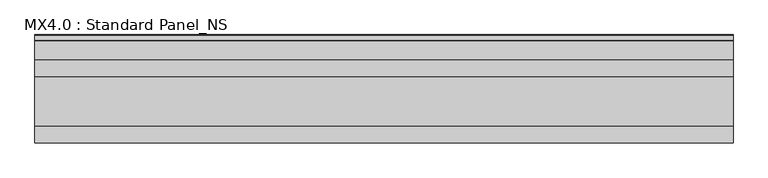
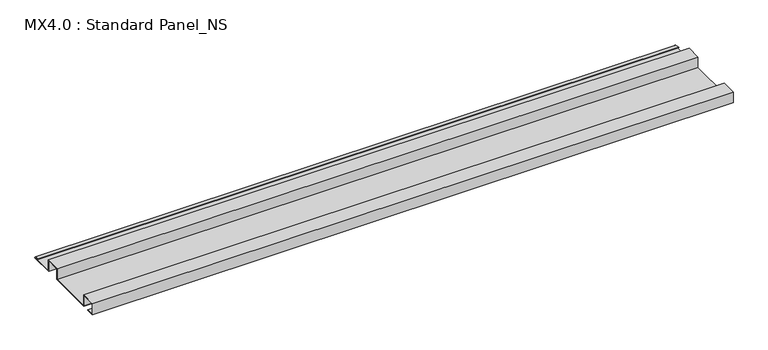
"""IFC4 building model written with IfcOpenShell, lengths in millimetres: proxy geometry, MX4.0 : Standard Panel_NS."""

from ifc_helpers import new_model, si_unit, point, frame, frame_2d, origin, place, context, project, spatial, polyline, circle_curve, trimmed, segment, composite_curve, outline, extrude, source, transform, mapped, element, save


def mx4_0_standard_panel_ns_50b23f36(model_context):
    return source(origin(), model_context, "Body", "SweptSolid", [
        extrude(outline(composite_curve([segment(polyline([(0.0, 0.0), (0.0, 38.0), (50.0, 38.0), (50.0, 1.0), (200.0, 1.0), (200.0, 38.0), (250.0, 38.0), (250.0, 0.0), (324.8317866, 0.0)]), True, "CONTINUOUS"), segment(trimmed(circle_curve(frame_2d((324.3094696, 0.9153551)), 1.0538928), [point((324.8317866, 0.0))], [point((324.8448691, 1.8231201))], True, "CARTESIAN"), True, "CONTINUOUS"), segment(polyline([(324.8448691, 1.8231201), (308.5989911, 4.94103), (308.7874714, 5.923107), (325.1748462, 2.778041)]), True, "CONTINUOUS"), segment(trimmed(circle_curve(frame_2d((324.3094696, 0.9153551)), 2.0538928), [point((325.1748462, 2.778041))], [point((325.0510156, -1.0))], False, "CARTESIAN"), True, "CONTINUOUS"), segment(polyline([(325.0510156, -1.0), (249.0, -1.0), (249.0, 37.0), (201.0, 37.0), (201.0, 0.0), (49.0, 0.0), (49.0, 37.0), (1.0, 37.0), (1.0, 1.0), (25.0, 1.0), (25.0, 0.0), (0.0, 0.0)]), True, "CONTINUOUS")], self_intersect=False)), frame((0.0, 0.0, 0.0), z_axis=(1.0, 0.0, 0.0), x_axis=(0.0, 1.0, 0.0)), (0.0, 0.0, 1.0), 2100.0),
    ])


if __name__ == "__main__":
    model = new_model("IFC4")
    model_context = context("Model", 3, world=origin())
    ifc_project = project(units=[si_unit("LENGTHUNIT", "METRE", prefix="MILLI")], contexts=[model_context])
    site = spatial("IfcSite", under=ifc_project)
    building = spatial("IfcBuilding", under=site)
    placement = place(None, origin())
    mx4_0_standard_panel_ns_shape = mx4_0_standard_panel_ns_50b23f36(model_context)
    element("IfcBuildingElementProxy", 1, Name="MX4.0 : Standard Panel_NS", ObjectType="MX4.0 : Standard Panel_NS", at=placement, inside=building, context=model_context, shape_type="MappedRepresentation", body=[
        mapped(mx4_0_standard_panel_ns_shape, transform((0.0, 0.0, 0.0), x_axis=(1.0, 0.0, 0.0), y_axis=(0.0, 1.0, 0.0), z_axis=(0.0, 0.0, 1.0))),
    ])
    save(model, "model.ifc")
